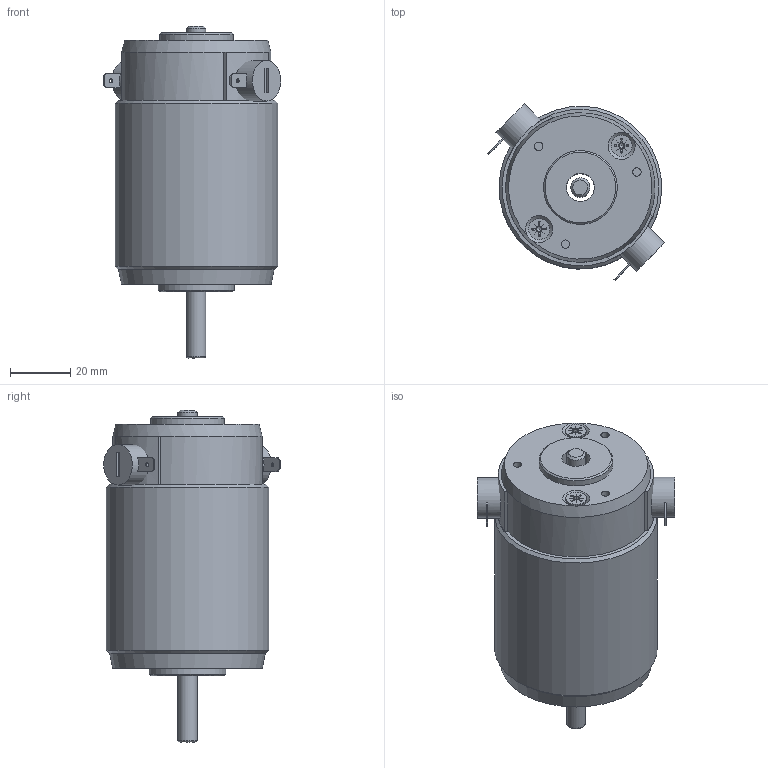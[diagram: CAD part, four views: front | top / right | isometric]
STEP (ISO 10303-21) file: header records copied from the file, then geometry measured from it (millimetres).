
FILE_DESCRIPTION((''),'2;1');
FILE_NAME('D:\연구개발부2팀 1파트\10_진행업무\3D\RM5_SERIES\RM52_TYPE.stp','2014-06-23T10:41:33',('song'),(''),'Autodesk Inventor 2011','Autodesk Inventor 2011','');
FILE_SCHEMA(('AUTOMOTIVE_DESIGN { 1 0 10303 214 1 1 1 1 }'));
Length unit declared in the file: millimetre
Products named in the file (11): RM52_TYPE; RM5_TYPE_REAR_HOUSING; RM5_REAR; BRUSH_HOLDER_ASSY; BRUSH_HOLDER_ASSY_MIR; RM5_BRUSH_COVER_RED; RM5_BRUSH_COVER_BRACK; AS 1427 Z - 미터 M4 x 50; RM5_FRONT; RM52_SHAFT; RM5_PIPE_pi54XL60
Assembly tree (11 placements, depth 3):
  RM52_TYPE
    RM5_TYPE_REAR_HOUSING
      RM5_REAR
      BRUSH_HOLDER_ASSY
      BRUSH_HOLDER_ASSY_MIR
      RM5_BRUSH_COVER_RED
      RM5_BRUSH_COVER_BRACK
    AS 1427 Z - 미터 M4 x 50  x2
    RM5_FRONT
    RM52_SHAFT
    RM5_PIPE_pi54XL60
Bounding box: 58.94 x 58.63 x 110.2 mm (x, y, z)
Volume: 70685.6 mm3; surface area: 40173.5 mm2
Topology: 10 solids, 10 shells, 189 faces, 459 edges, 300 vertices
Faces by surface type: plane 96, cylinder 43, cone 41, torus 9
Full cylindrical faces by diameter (mm): 1.3 x2, 2.8 x7, 3.571 x2, 4 x4, 4.2 x2, 5.76 x3, 6.336 x1, 7 x2, 9.3 x2, 11 x4, 13.4 x2, 24.5 x1, 25.4 x1, 46 x2, 49.6 x1, 54 x1
Entity records: 4639 total; most frequent: CARTESIAN_POINT 1103, DIRECTION 694, ORIENTED_EDGE 564, AXIS2_PLACEMENT_3D 289, EDGE_CURVE 282, EDGE_LOOP 238, VERTEX_POINT 212, FACE_OUTER_BOUND 148
